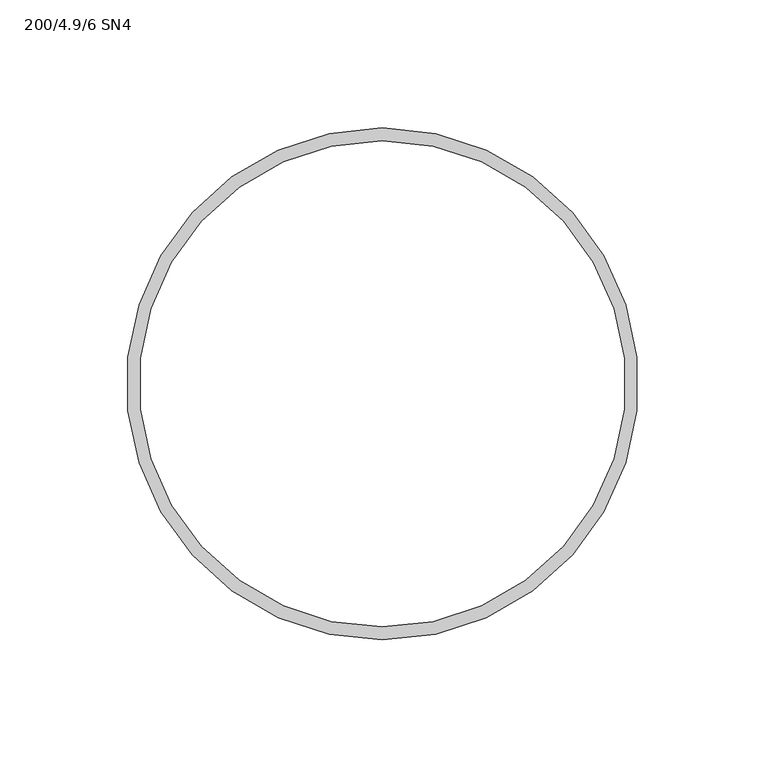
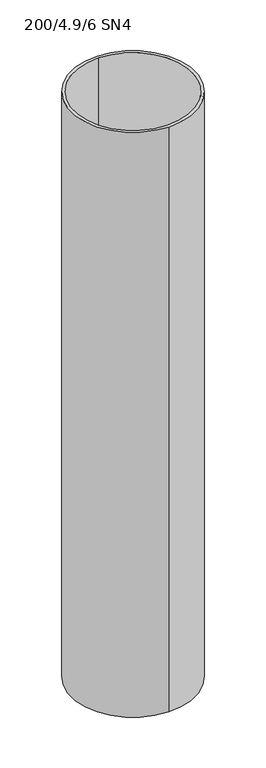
"""IFC4 building model written with IfcOpenShell, lengths in millimetres: valve geometry, Pipelife - Studnia PRO - PVC Rura kanal. trzonowa 200 : 200/4.9/6 SN4."""

from ifc_helpers import new_model, si_unit, point, origin, origin_with_axes, origin_2d, place, context, project, spatial, circle_curve, trimmed, segment, composite_curve, outline, extrude, source, transform, mapped, element, save


def valve_200_4_9_6_sn4_7fdc520a(model_context):
    return source(origin(), model_context, "Body", "SweptSolid", [
        extrude(outline(composite_curve([segment(trimmed(circle_curve(origin_2d(), 100.0), [point((0.0, 100.0))], [point((0.0, -100.0))], False, "CARTESIAN"), True, "CONTINUOUS"), segment(trimmed(circle_curve(origin_2d(), 100.0), [point((0.0, -100.0))], [point((0.0, 100.0))], False, "CARTESIAN"), True, "CONTINUOUS")], self_intersect=False), holes=[composite_curve([segment(trimmed(circle_curve(origin_2d(), 95.0), [point((0.0, 95.0))], [point((0.0, -95.0))], True, "CARTESIAN"), True, "CONTINUOUS"), segment(trimmed(circle_curve(origin_2d(), 95.0), [point((0.0, -95.0))], [point((0.0, 95.0))], True, "CARTESIAN"), True, "CONTINUOUS")], self_intersect=False)]), origin_with_axes(), (0.0, 0.0, 1.0), 1000.0),
    ])


if __name__ == "__main__":
    model = new_model("IFC4")
    model_context = context("Model", 3, world=origin())
    ifc_project = project(units=[si_unit("LENGTHUNIT", "METRE", prefix="MILLI")], contexts=[model_context])
    site = spatial("IfcSite", under=ifc_project)
    building = spatial("IfcBuilding", under=site)
    placement = place(None, origin())
    valve_200_4_9_6_sn4_shape = valve_200_4_9_6_sn4_7fdc520a(model_context)
    element("IfcValve", 1, ObjectType="Pipelife - Studnia PRO - PVC Rura kanal. trzonowa 200 : 200/4.9/6 SN4", at=placement, inside=building, context=model_context, shape_type="MappedRepresentation", body=[
        mapped(valve_200_4_9_6_sn4_shape, transform((0.0, 0.0, 0.0), x_axis=(1.0, 0.0, 0.0), y_axis=(0.0, 1.0, 0.0), z_axis=(0.0, 0.0, 1.0))),
    ])
    save(model, "model.ifc")
